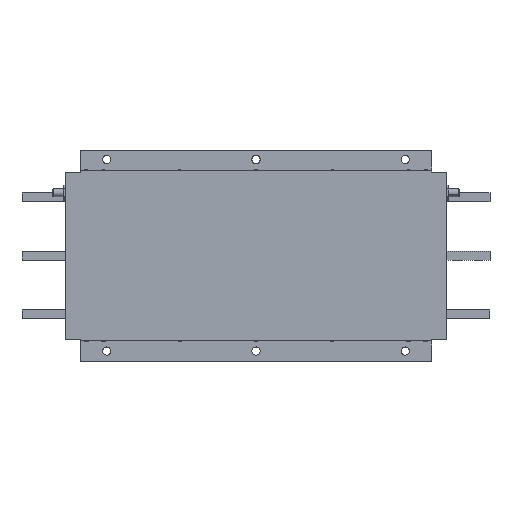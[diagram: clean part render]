
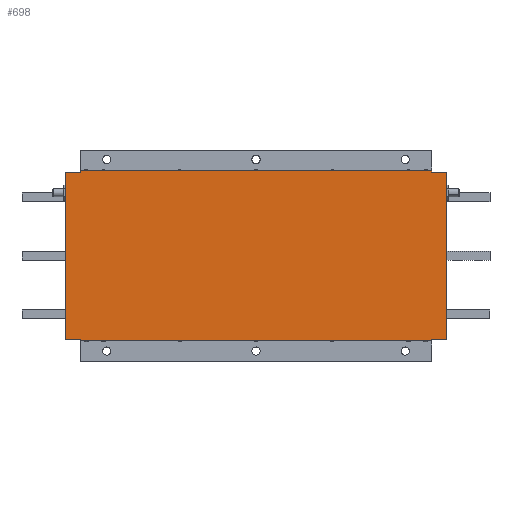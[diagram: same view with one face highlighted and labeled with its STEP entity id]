
A CAD part, top view. The second image highlights one B-rep face of the part: STEP entity #698.
In plain terms, the highlighted planar face has unit normal (0, 0, 1) as drawn and (0, 0, -1) by its records, which use the part's own axes.
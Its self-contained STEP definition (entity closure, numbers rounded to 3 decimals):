
#61 = DIRECTION ( 'NONE',  ( 0., 0., -1. ) ) ;
#64 = DIRECTION ( 'NONE',  ( 0., -1., 0. ) ) ;
#69 = VERTEX_POINT ( 'NONE', #3003 ) ;
#346 = PLANE ( 'NONE',  #684 ) ;
#506 = EDGE_CURVE ( 'NONE', #8537, #3360, #13524, .T. ) ;
#638 = VERTEX_POINT ( 'NONE', #1432 ) ;
#684 = AXIS2_PLACEMENT_3D ( 'NONE', #5433, #13236, #9304 ) ;
#698 = ADVANCED_FACE ( 'NONE', ( #9056 ), #346, .F. ) ;
#881 = DIRECTION ( 'NONE',  ( 0., 1., 0. ) ) ;
#1075 = CARTESIAN_POINT ( 'NONE',  ( 300., -145., 0. ) ) ;
#1130 = CARTESIAN_POINT ( 'NONE',  ( -324., 142., 0. ) ) ;
#1279 = EDGE_CURVE ( 'NONE', #14223, #6853, #1991, .T. ) ;
#1326 = LINE ( 'NONE', #15304, #12084 ) ;
#1387 = EDGE_CURVE ( 'NONE', #69, #5599, #14977, .T. ) ;
#1432 = CARTESIAN_POINT ( 'NONE',  ( -325., 142., 0. ) ) ;
#1483 = VECTOR ( 'NONE', #5767, 1000. ) ;
#1544 = ORIENTED_EDGE ( 'NONE', *, *, #9906, .F. ) ;
#1601 = EDGE_CURVE ( 'NONE', #3469, #14223, #1326, .T. ) ;
#1799 = CARTESIAN_POINT ( 'NONE',  ( 325., 142., 0. ) ) ;
#1800 = DIRECTION ( 'NONE',  ( 0., -1., 0. ) ) ;
#1956 = CARTESIAN_POINT ( 'NONE',  ( -324., -142., 0. ) ) ;
#1991 = LINE ( 'NONE', #3236, #7726 ) ;
#2099 = CIRCLE ( 'NONE', #9051, 1. ) ;
#2105 = VERTEX_POINT ( 'NONE', #8068 ) ;
#2196 = EDGE_LOOP ( 'NONE', ( #10454, #6346, #3148, #12888, #5299, #14516, #1544, #8520, #5656, #11899, #14457, #13424, #13552, #9608, #13988, #14486 ) ) ;
#2236 = DIRECTION ( 'NONE',  ( -1., 0., 0. ) ) ;
#2326 = DIRECTION ( 'NONE',  ( 0., 1., 0. ) ) ;
#2391 = DIRECTION ( 'NONE',  ( 1., 0., 0. ) ) ;
#2969 = DIRECTION ( 'NONE',  ( 1., 0., 0. ) ) ;
#3003 = CARTESIAN_POINT ( 'NONE',  ( -300., -145., 0. ) ) ;
#3019 = LINE ( 'NONE', #10726, #12397 ) ;
#3148 = ORIENTED_EDGE ( 'NONE', *, *, #506, .F. ) ;
#3236 = CARTESIAN_POINT ( 'NONE',  ( 325., 143., 0. ) ) ;
#3360 = VERTEX_POINT ( 'NONE', #1799 ) ;
#3374 = VECTOR ( 'NONE', #2236, 1000. ) ;
#3460 = CARTESIAN_POINT ( 'NONE',  ( 325., 145., 0. ) ) ;
#3469 = VERTEX_POINT ( 'NONE', #13603 ) ;
#3883 = AXIS2_PLACEMENT_3D ( 'NONE', #1130, #7644, #2391 ) ;
#4142 = VERTEX_POINT ( 'NONE', #1075 ) ;
#4176 = VECTOR ( 'NONE', #2969, 1000. ) ;
#4482 = CIRCLE ( 'NONE', #10905, 1. ) ;
#4811 = CARTESIAN_POINT ( 'NONE',  ( -325., -142., 0. ) ) ;
#5150 = DIRECTION ( 'NONE',  ( 1., 0., 0. ) ) ;
#5299 = ORIENTED_EDGE ( 'NONE', *, *, #13996, .T. ) ;
#5336 = VECTOR ( 'NONE', #881, 1000. ) ;
#5433 = CARTESIAN_POINT ( 'NONE',  ( 0., 0., 0. ) ) ;
#5599 = VERTEX_POINT ( 'NONE', #10194 ) ;
#5656 = ORIENTED_EDGE ( 'NONE', *, *, #14073, .T. ) ;
#5677 = CARTESIAN_POINT ( 'NONE',  ( -324., 143., 0. ) ) ;
#5767 = DIRECTION ( 'NONE',  ( 0., -1., 0. ) ) ;
#5800 = DIRECTION ( 'NONE',  ( 1., 0., 0. ) ) ;
#6094 = DIRECTION ( 'NONE',  ( -1., 0., 0. ) ) ;
#6172 = CARTESIAN_POINT ( 'NONE',  ( -325., -143., 0. ) ) ;
#6307 = EDGE_CURVE ( 'NONE', #9798, #2105, #11589, .T. ) ;
#6346 = ORIENTED_EDGE ( 'NONE', *, *, #10875, .T. ) ;
#6601 = CARTESIAN_POINT ( 'NONE',  ( 300., -143., 0. ) ) ;
#6656 = LINE ( 'NONE', #9487, #13888 ) ;
#6853 = VERTEX_POINT ( 'NONE', #14907 ) ;
#6865 = VECTOR ( 'NONE', #6094, 1000. ) ;
#6959 = DIRECTION ( 'NONE',  ( 0., 1., 0. ) ) ;
#7003 = DIRECTION ( 'NONE',  ( -1., 0., 0. ) ) ;
#7101 = LINE ( 'NONE', #9691, #1483 ) ;
#7172 = LINE ( 'NONE', #12551, #3374 ) ;
#7644 = DIRECTION ( 'NONE',  ( 0., 0., -1. ) ) ;
#7726 = VECTOR ( 'NONE', #10702, 1000. ) ;
#8068 = CARTESIAN_POINT ( 'NONE',  ( -300., 143., 0. ) ) ;
#8338 = EDGE_CURVE ( 'NONE', #638, #15663, #7101, .T. ) ;
#8439 = CARTESIAN_POINT ( 'NONE',  ( 324., -143., 0. ) ) ;
#8481 = CIRCLE ( 'NONE', #3883, 1. ) ;
#8520 = ORIENTED_EDGE ( 'NONE', *, *, #1387, .T. ) ;
#8537 = VERTEX_POINT ( 'NONE', #12211 ) ;
#8676 = LINE ( 'NONE', #16146, #10641 ) ;
#8692 = LINE ( 'NONE', #8933, #14035 ) ;
#8698 = AXIS2_PLACEMENT_3D ( 'NONE', #10211, #16433, #10142 ) ;
#8924 = CARTESIAN_POINT ( 'NONE',  ( 324., -142., 0. ) ) ;
#8933 = CARTESIAN_POINT ( 'NONE',  ( -325., -145., 0. ) ) ;
#9051 = AXIS2_PLACEMENT_3D ( 'NONE', #8924, #61, #5150 ) ;
#9056 = FACE_OUTER_BOUND ( 'NONE', #2196, .T. ) ;
#9238 = EDGE_CURVE ( 'NONE', #2105, #10743, #3019, .T. ) ;
#9304 = DIRECTION ( 'NONE',  ( 1., 0., 0. ) ) ;
#9424 = CARTESIAN_POINT ( 'NONE',  ( 300., 143., 0. ) ) ;
#9487 = CARTESIAN_POINT ( 'NONE',  ( 300., -145., 0. ) ) ;
#9608 = ORIENTED_EDGE ( 'NONE', *, *, #9238, .T. ) ;
#9691 = CARTESIAN_POINT ( 'NONE',  ( -325., 145., 0. ) ) ;
#9798 = VERTEX_POINT ( 'NONE', #5677 ) ;
#9906 = EDGE_CURVE ( 'NONE', #69, #4142, #8692, .T. ) ;
#10111 = CARTESIAN_POINT ( 'NONE',  ( -300., -145., 0. ) ) ;
#10142 = DIRECTION ( 'NONE',  ( 1., 0., 0. ) ) ;
#10194 = CARTESIAN_POINT ( 'NONE',  ( -300., -143., 0. ) ) ;
#10211 = CARTESIAN_POINT ( 'NONE',  ( 324., 142., 0. ) ) ;
#10454 = ORIENTED_EDGE ( 'NONE', *, *, #1279, .T. ) ;
#10502 = CARTESIAN_POINT ( 'NONE',  ( -325., 143., 0. ) ) ;
#10641 = VECTOR ( 'NONE', #7003, 1000. ) ;
#10702 = DIRECTION ( 'NONE',  ( 1., 0., 0. ) ) ;
#10726 = CARTESIAN_POINT ( 'NONE',  ( -300., 145., 0. ) ) ;
#10743 = VERTEX_POINT ( 'NONE', #11929 ) ;
#10875 = EDGE_CURVE ( 'NONE', #6853, #3360, #15939, .T. ) ;
#10905 = AXIS2_PLACEMENT_3D ( 'NONE', #1956, #15954, #5800 ) ;
#11063 = CARTESIAN_POINT ( 'NONE',  ( -324., -143., 0. ) ) ;
#11112 = VERTEX_POINT ( 'NONE', #8439 ) ;
#11278 = LINE ( 'NONE', #6172, #6865 ) ;
#11589 = LINE ( 'NONE', #10502, #4176 ) ;
#11899 = ORIENTED_EDGE ( 'NONE', *, *, #14795, .T. ) ;
#11929 = CARTESIAN_POINT ( 'NONE',  ( -300., 145., 0. ) ) ;
#12018 = VECTOR ( 'NONE', #2326, 1000. ) ;
#12084 = VECTOR ( 'NONE', #64, 1000. ) ;
#12211 = CARTESIAN_POINT ( 'NONE',  ( 325., -142., 0. ) ) ;
#12397 = VECTOR ( 'NONE', #6959, 1000. ) ;
#12551 = CARTESIAN_POINT ( 'NONE',  ( 325., -143., 0. ) ) ;
#12746 = EDGE_CURVE ( 'NONE', #3469, #10743, #8676, .T. ) ;
#12888 = ORIENTED_EDGE ( 'NONE', *, *, #12997, .T. ) ;
#12997 = EDGE_CURVE ( 'NONE', #8537, #11112, #2099, .T. ) ;
#13236 = DIRECTION ( 'NONE',  ( 0., 0., 1. ) ) ;
#13256 = EDGE_CURVE ( 'NONE', #638, #9798, #8481, .T. ) ;
#13424 = ORIENTED_EDGE ( 'NONE', *, *, #13256, .T. ) ;
#13524 = LINE ( 'NONE', #3460, #5336 ) ;
#13552 = ORIENTED_EDGE ( 'NONE', *, *, #6307, .T. ) ;
#13603 = CARTESIAN_POINT ( 'NONE',  ( 300., 145., 0. ) ) ;
#13655 = VERTEX_POINT ( 'NONE', #6601 ) ;
#13888 = VECTOR ( 'NONE', #1800, 1000. ) ;
#13988 = ORIENTED_EDGE ( 'NONE', *, *, #12746, .F. ) ;
#13996 = EDGE_CURVE ( 'NONE', #11112, #13655, #7172, .T. ) ;
#14035 = VECTOR ( 'NONE', #15241, 1000. ) ;
#14073 = EDGE_CURVE ( 'NONE', #5599, #16056, #11278, .T. ) ;
#14223 = VERTEX_POINT ( 'NONE', #9424 ) ;
#14457 = ORIENTED_EDGE ( 'NONE', *, *, #8338, .F. ) ;
#14486 = ORIENTED_EDGE ( 'NONE', *, *, #1601, .T. ) ;
#14516 = ORIENTED_EDGE ( 'NONE', *, *, #15910, .T. ) ;
#14795 = EDGE_CURVE ( 'NONE', #16056, #15663, #4482, .T. ) ;
#14907 = CARTESIAN_POINT ( 'NONE',  ( 324., 143., 0. ) ) ;
#14977 = LINE ( 'NONE', #10111, #12018 ) ;
#15241 = DIRECTION ( 'NONE',  ( 1., 0., 0. ) ) ;
#15304 = CARTESIAN_POINT ( 'NONE',  ( 300., 145., 0. ) ) ;
#15663 = VERTEX_POINT ( 'NONE', #4811 ) ;
#15910 = EDGE_CURVE ( 'NONE', #13655, #4142, #6656, .T. ) ;
#15939 = CIRCLE ( 'NONE', #8698, 1. ) ;
#15954 = DIRECTION ( 'NONE',  ( 0., 0., -1. ) ) ;
#16056 = VERTEX_POINT ( 'NONE', #11063 ) ;
#16146 = CARTESIAN_POINT ( 'NONE',  ( -325., 145., 0. ) ) ;
#16433 = DIRECTION ( 'NONE',  ( 0., 0., -1. ) ) ;
